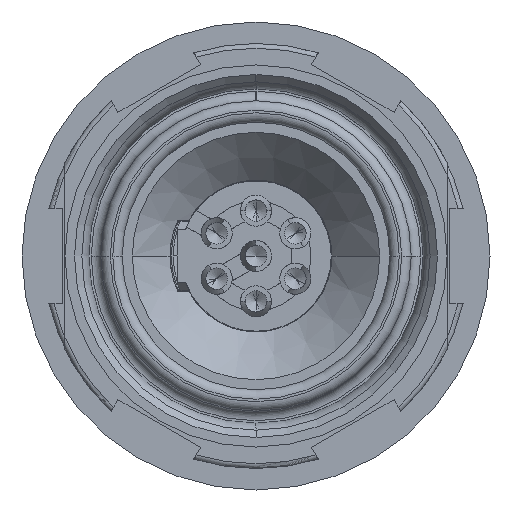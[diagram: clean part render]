
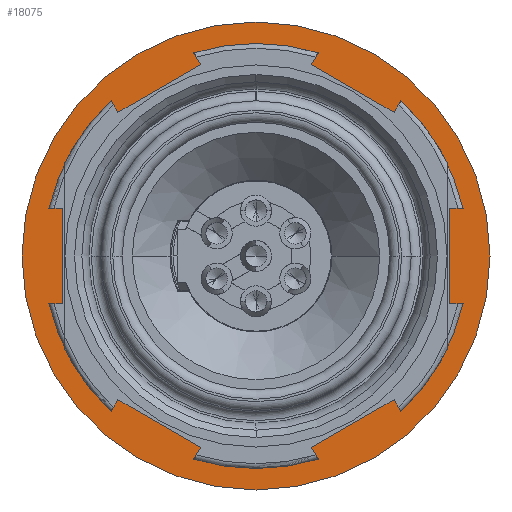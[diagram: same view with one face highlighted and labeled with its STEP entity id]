
A CAD part, left-side view. The second image highlights one B-rep face of the part: STEP entity #18075.
In plain terms, the highlighted planar face has unit normal (-1, 0, 0).
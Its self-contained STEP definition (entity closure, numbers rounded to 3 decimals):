
#1805=CARTESIAN_POINT('',(-5.5,0.,0.));
#1806=DIRECTION('',(1.,0.,0.));
#1807=DIRECTION('',(0.,-1.,0.));
#1808=AXIS2_PLACEMENT_3D('',#1805,#1806,#1807);
#1810=CARTESIAN_POINT('',(-5.5,0.,0.));
#1811=DIRECTION('',(1.,0.,0.));
#1812=DIRECTION('',(0.,1.,0.));
#1813=AXIS2_PLACEMENT_3D('',#1810,#1811,#1812);
#1815=CARTESIAN_POINT('',(-5.5,0.,0.));
#1816=DIRECTION('',(-1.,0.,0.));
#1817=DIRECTION('',(0.,-1.,0.));
#1818=AXIS2_PLACEMENT_3D('',#1815,#1816,#1817);
#1820=CARTESIAN_POINT('',(-5.5,0.,0.));
#1821=DIRECTION('',(-1.,0.,0.));
#1822=DIRECTION('',(0.,1.,0.));
#1823=AXIS2_PLACEMENT_3D('',#1820,#1821,#1822);
#11510=CARTESIAN_POINT('',(-5.5,4.9,0.));
#11511=VERTEX_POINT('',#11510);
#11512=CARTESIAN_POINT('',(-5.5,-4.9,0.));
#11513=VERTEX_POINT('',#11512);
#11516=CARTESIAN_POINT('',(-5.5,-3.6,0.));
#11517=CARTESIAN_POINT('',(-5.5,3.6,0.));
#11518=VERTEX_POINT('',#11516);
#11519=VERTEX_POINT('',#11517);
#18060=CARTESIAN_POINT('',(-5.5,0.,0.));
#18061=DIRECTION('',(1.,0.,0.));
#18062=DIRECTION('',(0.,-1.,0.));
#18063=AXIS2_PLACEMENT_3D('',#18060,#18061,#18062);
#18064=PLANE('',#18063);
#18065=ORIENTED_EDGE('',*,*,#18002,.T.);
#18066=ORIENTED_EDGE('',*,*,#18026,.T.);
#18067=EDGE_LOOP('',(#18065,#18066));
#18068=FACE_OUTER_BOUND('',#18067,.F.);
#18070=ORIENTED_EDGE('',*,*,#18069,.T.);
#18072=ORIENTED_EDGE('',*,*,#18071,.T.);
#18073=EDGE_LOOP('',(#18070,#18072));
#18074=FACE_BOUND('',#18073,.F.);
#1809=CIRCLE('',#1808,4.9);
#1814=CIRCLE('',#1813,4.9);
#1819=CIRCLE('',#1818,3.6);
#1824=CIRCLE('',#1823,3.6);
#18002=EDGE_CURVE('',#11513,#11511,#1809,.T.);
#18026=EDGE_CURVE('',#11511,#11513,#1814,.T.);
#18069=EDGE_CURVE('',#11518,#11519,#1819,.T.);
#18071=EDGE_CURVE('',#11519,#11518,#1824,.T.);
#18075=ADVANCED_FACE('',(#18068,#18074),#18064,.F.);
